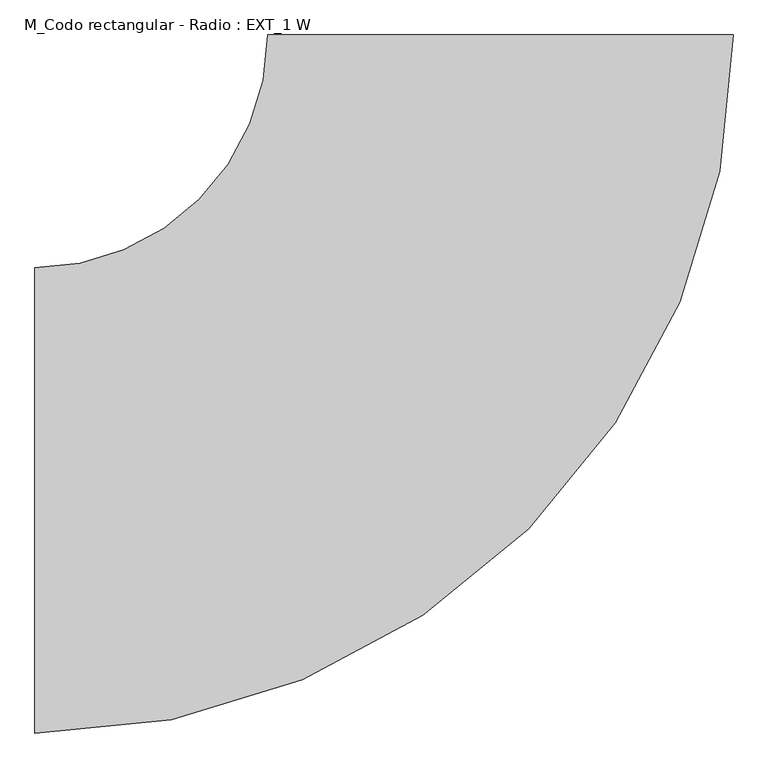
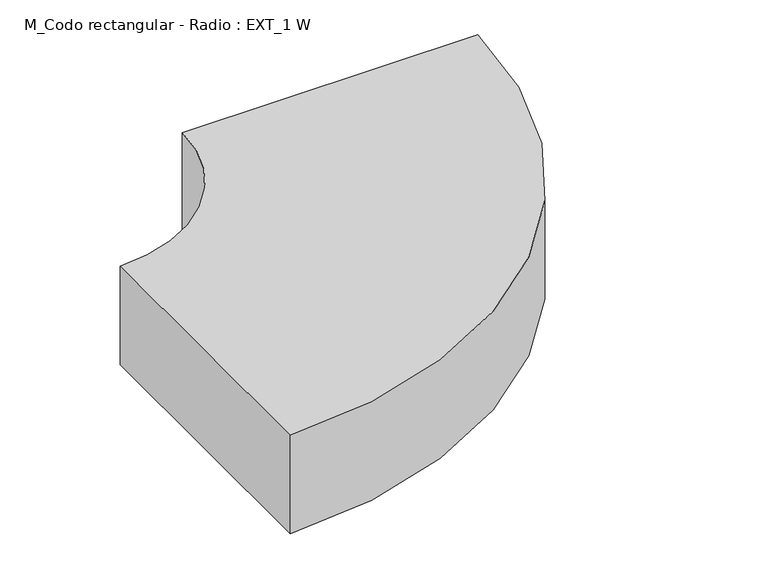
"""IFC4 building model written with IfcOpenShell, lengths in millimetres: duct fitting geometry, M_Codo rectangular - Radio : EXT_1 W."""

from ifc_helpers import new_model, si_unit, point, frame, frame_2d, origin, place, context, project, spatial, polyline, circle_curve, trimmed, segment, composite_curve, outline, extrude, source, transform, mapped, element, save


def m_codo_rectangular_radio_ext_1_w_ad069fb7(model_context):
    return source(origin(), model_context, "Body", "SweptSolid", [
        extrude(outline(composite_curve([segment(trimmed(circle_curve(frame_2d((-850.0, 850.0)), 1275.0), [point((425.0, 850.0))], [point((-850.0, -425.0))], False, "CARTESIAN"), True, "CONTINUOUS"), segment(polyline([(-850.0, -425.0), (-850.0, 425.0)]), True, "CONTINUOUS"), segment(trimmed(circle_curve(frame_2d((-850.0, 850.0)), 425.0), [point((-850.0, 425.0))], [point((-425.0, 850.0))], True, "CARTESIAN"), True, "CONTINUOUS"), segment(polyline([(-425.0, 850.0), (425.0, 850.0)]), True, "CONTINUOUS")], self_intersect=False)), frame((0.0, 0.0, -150.0), z_axis=(0.0, 0.0, 1.0), x_axis=(1.0, 0.0, 0.0)), (0.0, 0.0, 1.0), 300.0),
    ])


if __name__ == "__main__":
    model = new_model("IFC4")
    model_context = context("Model", 3, world=origin())
    ifc_project = project(units=[si_unit("LENGTHUNIT", "METRE", prefix="MILLI")], contexts=[model_context])
    site = spatial("IfcSite", under=ifc_project)
    building = spatial("IfcBuilding", under=site)
    placement = place(None, origin())
    m_codo_rectangular_radio_ext_1_w_shape = m_codo_rectangular_radio_ext_1_w_ad069fb7(model_context)
    element("IfcDuctFitting", 1, ObjectType="M_Codo rectangular - Radio : EXT_1 W", at=placement, inside=building, context=model_context, shape_type="MappedRepresentation", body=[
        mapped(m_codo_rectangular_radio_ext_1_w_shape, transform((0.0, 0.0, 0.0), x_axis=(1.0, 0.0, 0.0), y_axis=(0.0, 1.0, 0.0), z_axis=(0.0, 0.0, 1.0))),
    ])
    save(model, "model.ifc")
